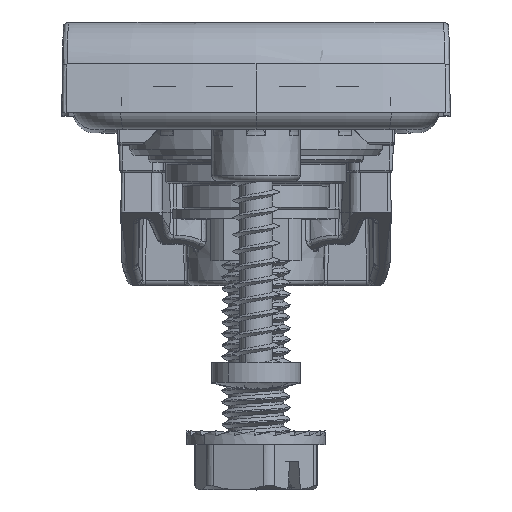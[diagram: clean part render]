
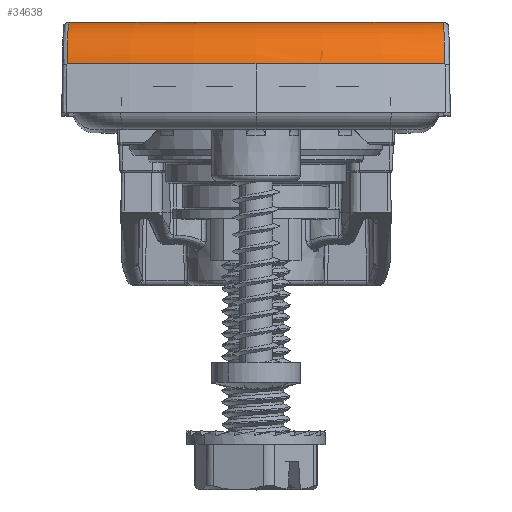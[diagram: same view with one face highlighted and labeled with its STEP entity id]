
A CAD part, top view. The second image highlights one B-rep face of the part: STEP entity #34638.
In plain terms, the highlighted toroidal (fillet/blend) face has major radius 74.02 mm and minor radius 5 mm.
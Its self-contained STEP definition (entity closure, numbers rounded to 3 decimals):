
#356 = CARTESIAN_POINT ( 'NONE',  ( -16.547, 7.742, 168.772 ) ) ;
#2525 = CARTESIAN_POINT ( 'NONE',  ( -16.62, 6.218, 171.092 ) ) ;
#5356 = AXIS2_PLACEMENT_3D ( 'NONE', #13393, #32971, #19499 ) ;
#5619 = CARTESIAN_POINT ( 'NONE',  ( -16.509, 8., 167.155 ) ) ;
#6701 = DIRECTION ( 'NONE',  ( -1., 0., 0. ) ) ;
#7769 = CARTESIAN_POINT ( 'NONE',  ( -16.646, 5.302, 171.707 ) ) ;
#9677 = VERTEX_POINT ( 'NONE', #30944 ) ;
#10273 = CARTESIAN_POINT ( 'NONE',  ( 16.596, 6.822, 170.441 ) ) ;
#11146 = CARTESIAN_POINT ( 'NONE',  ( 16.592, 6.934, 170.3 ) ) ;
#11563 = CARTESIAN_POINT ( 'NONE',  ( 16.593, 6.901, 170.343 ) ) ;
#11924 = CARTESIAN_POINT ( 'NONE',  ( 0., 4.294, 95. ) ) ;
#11987 = CARTESIAN_POINT ( 'NONE',  ( 16.59, 6.968, 170.256 ) ) ;
#12162 = CARTESIAN_POINT ( 'NONE',  ( -16.587, 7.048, 170.146 ) ) ;
#12408 = CARTESIAN_POINT ( 'NONE',  ( 16.549, 7.717, 168.848 ) ) ;
#12655 = VERTEX_POINT ( 'NONE', #43775 ) ;
#13393 = CARTESIAN_POINT ( 'NONE',  ( 0., 3., 95. ) ) ;
#13441 = CARTESIAN_POINT ( 'NONE',  ( -16.547, 7.749, 168.752 ) ) ;
#14006 = EDGE_CURVE ( 'NONE', #31764, #33258, #74433, .T. ) ;
#14734 = CARTESIAN_POINT ( 'NONE',  ( -16.589, 7., 170.212 ) ) ;
#15821 = EDGE_LOOP ( 'NONE', ( #59482, #82513, #71900, #18695, #56783 ) ) ;
#16825 = CARTESIAN_POINT ( 'NONE',  ( 16.608, 6.511, 170.783 ) ) ;
#18122 = CARTESIAN_POINT ( 'NONE',  ( 16.591, 6.956, 170.271 ) ) ;
#18695 = ORIENTED_EDGE ( 'NONE', *, *, #14006, .T. ) ;
#19378 = CARTESIAN_POINT ( 'NONE',  ( 16.548, 7.731, 168.805 ) ) ;
#19499 = DIRECTION ( 'NONE',  ( 1., 0., 0. ) ) ;
#20842 = CARTESIAN_POINT ( 'NONE',  ( -16.584, 7.114, 170.053 ) ) ;
#24633 = CARTESIAN_POINT ( 'NONE',  ( 16.562, 7.529, 169.321 ) ) ;
#25422 = DIRECTION ( 'NONE',  ( 0., -1., 0. ) ) ;
#25459 = CARTESIAN_POINT ( 'NONE',  ( 16.557, 7.612, 169.125 ) ) ;
#26651 = CARTESIAN_POINT ( 'NONE',  ( -16.669, 4.294, 172.067 ) ) ;
#26932 = CARTESIAN_POINT ( 'NONE',  ( -16.555, 7.648, 169.058 ) ) ;
#27800 = CARTESIAN_POINT ( 'NONE',  ( -16.605, 6.635, 170.701 ) ) ;
#27909 = B_SPLINE_CURVE_WITH_KNOTS ( 'NONE', 3,
 ( #5619, #32157, #45627, #46477, #72940, #60325, #53845, #79852, #71664, #13441, #66421, #356, #26932, #53412, #40411, #80289, #39113, #20842, #12162, #58616, #14734, #74657, #27800, #2525, #7769, #48617, #74227 ),
 .UNSPECIFIED., .F., .F.,
 ( 4, 2, 2, 1, 1, 1, 2, 2, 2, 2, 1, 1, 2, 2, 2, 4 ),
 ( 0., 0.125, 0.187, 0.219, 0.234, 0.242, 0.246, 0.25, 0.375, 0.437, 0.469, 0.484, 0.492, 0.5, 0.75, 1. ),
 .UNSPECIFIED. ) ;
#30752 = CARTESIAN_POINT ( 'NONE',  ( 16.669, 4.294, 172.067 ) ) ;
#30944 = CARTESIAN_POINT ( 'NONE',  ( 0., 4.294, 173.849 ) ) ;
#31609 = CARTESIAN_POINT ( 'NONE',  ( 16.509, 8., 167.155 ) ) ;
#31764 = VERTEX_POINT ( 'NONE', #82316 ) ;
#32157 = CARTESIAN_POINT ( 'NONE',  ( -16.515, 8., 167.468 ) ) ;
#32419 = CARTESIAN_POINT ( 'NONE',  ( 16.522, 8., 167.784 ) ) ;
#32971 = DIRECTION ( 'NONE',  ( 0., -1., 0. ) ) ;
#33258 = VERTEX_POINT ( 'NONE', #31609 ) ;
#33403 = FACE_OUTER_BOUND ( 'NONE', #15821, .T. ) ;
#33528 = CIRCLE ( 'NONE', #40483, 78.849 ) ;
#34638 = ADVANCED_FACE ( 'NONE', ( #33403 ), #58094, .T. ) ;
#36820 = CARTESIAN_POINT ( 'NONE',  ( 16.599, 6.753, 170.522 ) ) ;
#37613 = DIRECTION ( 'NONE',  ( -1., 0., 0. ) ) ;
#37678 = CARTESIAN_POINT ( 'NONE',  ( 16.583, 7.132, 170.036 ) ) ;
#38103 = CARTESIAN_POINT ( 'NONE',  ( 16.619, 6.205, 171.074 ) ) ;
#39113 = CARTESIAN_POINT ( 'NONE',  ( -16.581, 7.168, 169.97 ) ) ;
#40294 = CIRCLE ( 'NONE', #58297, 78.849 ) ;
#40411 = CARTESIAN_POINT ( 'NONE',  ( -16.573, 7.343, 169.684 ) ) ;
#40483 = AXIS2_PLACEMENT_3D ( 'NONE', #11924, #44138, #37613 ) ;
#40663 = CARTESIAN_POINT ( 'NONE',  ( 16.549, 7.725, 168.822 ) ) ;
#42155 = AXIS2_PLACEMENT_3D ( 'NONE', #45303, #51380, #57884 ) ;
#43775 = CARTESIAN_POINT ( 'NONE',  ( -16.509, 8., 167.155 ) ) ;
#44138 = DIRECTION ( 'NONE',  ( 0., -1., 0. ) ) ;
#44204 = CARTESIAN_POINT ( 'NONE',  ( 16.605, 6.61, 170.682 ) ) ;
#45303 = CARTESIAN_POINT ( 'NONE',  ( 0., 8., 95. ) ) ;
#45627 = CARTESIAN_POINT ( 'NONE',  ( -16.522, 7.972, 167.762 ) ) ;
#46302 = CARTESIAN_POINT ( 'NONE',  ( 16.554, 7.652, 169.026 ) ) ;
#46477 = CARTESIAN_POINT ( 'NONE',  ( -16.532, 7.902, 168.169 ) ) ;
#48617 = CARTESIAN_POINT ( 'NONE',  ( -16.658, 4.803, 171.93 ) ) ;
#50693 = CARTESIAN_POINT ( 'NONE',  ( 16.646, 5.3, 171.708 ) ) ;
#51380 = DIRECTION ( 'NONE',  ( 0., 1., 0. ) ) ;
#51955 = CARTESIAN_POINT ( 'NONE',  ( 16.548, 7.735, 168.795 ) ) ;
#53412 = CARTESIAN_POINT ( 'NONE',  ( -16.562, 7.535, 169.319 ) ) ;
#53845 = CARTESIAN_POINT ( 'NONE',  ( -16.542, 7.802, 168.578 ) ) ;
#54962 = EDGE_CURVE ( 'NONE', #9677, #62681, #33528, .T. ) ;
#56783 = ORIENTED_EDGE ( 'NONE', *, *, #73599, .F. ) ;
#57616 = CARTESIAN_POINT ( 'NONE',  ( 16.576, 7.276, 169.811 ) ) ;
#57884 = DIRECTION ( 'NONE',  ( 1., 0., 0. ) ) ;
#58094 = TOROIDAL_SURFACE ( 'NONE', #5356, 74.02, 5. ) ;
#58297 = AXIS2_PLACEMENT_3D ( 'NONE', #84896, #25422, #6701 ) ;
#58616 = CARTESIAN_POINT ( 'NONE',  ( -16.588, 7.019, 170.186 ) ) ;
#59482 = ORIENTED_EDGE ( 'NONE', *, *, #84806, .T. ) ;
#59718 = CARTESIAN_POINT ( 'NONE',  ( 16.536, 7.887, 168.333 ) ) ;
#60053 = CIRCLE ( 'NONE', #42155, 74.02 ) ;
#60325 = CARTESIAN_POINT ( 'NONE',  ( -16.54, 7.827, 168.486 ) ) ;
#62681 = VERTEX_POINT ( 'NONE', #26651 ) ;
#66137 = EDGE_CURVE ( 'NONE', #31764, #9677, #40294, .T. ) ;
#66421 = CARTESIAN_POINT ( 'NONE',  ( -16.547, 7.744, 168.766 ) ) ;
#67115 = CARTESIAN_POINT ( 'NONE',  ( 16.509, 8., 167.155 ) ) ;
#71664 = CARTESIAN_POINT ( 'NONE',  ( -16.546, 7.755, 168.731 ) ) ;
#71900 = ORIENTED_EDGE ( 'NONE', *, *, #66137, .F. ) ;
#72940 = CARTESIAN_POINT ( 'NONE',  ( -16.535, 7.874, 168.299 ) ) ;
#73599 = EDGE_CURVE ( 'NONE', #12655, #33258, #60053, .T. ) ;
#74227 = CARTESIAN_POINT ( 'NONE',  ( -16.669, 4.294, 172.067 ) ) ;
#74433 = B_SPLINE_CURVE_WITH_KNOTS ( 'NONE', 3,
 ( #30752, #77569, #50693, #77151, #38103, #16825, #44204, #36820, #10273, #11563, #11146, #18122, #11987, #37678, #57616, #84106, #24633, #25459, #46302, #78405, #12408, #40663, #19378, #51955, #59718, #32419, #67115 ),
 .UNSPECIFIED., .F., .F.,
 ( 4, 2, 2, 2, 1, 1, 2, 2, 2, 2, 1, 1, 1, 2, 2, 4 ),
 ( 0., 0.25, 0.375, 0.438, 0.469, 0.484, 0.492, 0.5, 0.625, 0.688, 0.719, 0.734, 0.742, 0.746, 0.75, 1. ),
 .UNSPECIFIED. ) ;
#74657 = CARTESIAN_POINT ( 'NONE',  ( -16.589, 6.992, 170.224 ) ) ;
#77151 = CARTESIAN_POINT ( 'NONE',  ( 16.626, 5.986, 171.248 ) ) ;
#77569 = CARTESIAN_POINT ( 'NONE',  ( 16.658, 4.802, 171.93 ) ) ;
#78405 = CARTESIAN_POINT ( 'NONE',  ( 16.551, 7.696, 168.908 ) ) ;
#79852 = CARTESIAN_POINT ( 'NONE',  ( -16.545, 7.771, 168.68 ) ) ;
#80289 = CARTESIAN_POINT ( 'NONE',  ( -16.576, 7.275, 169.801 ) ) ;
#82316 = CARTESIAN_POINT ( 'NONE',  ( 16.669, 4.294, 172.067 ) ) ;
#82513 = ORIENTED_EDGE ( 'NONE', *, *, #54962, .F. ) ;
#84106 = CARTESIAN_POINT ( 'NONE',  ( 16.566, 7.468, 169.447 ) ) ;
#84806 = EDGE_CURVE ( 'NONE', #12655, #62681, #27909, .T. ) ;
#84896 = CARTESIAN_POINT ( 'NONE',  ( 0., 4.294, 95. ) ) ;
